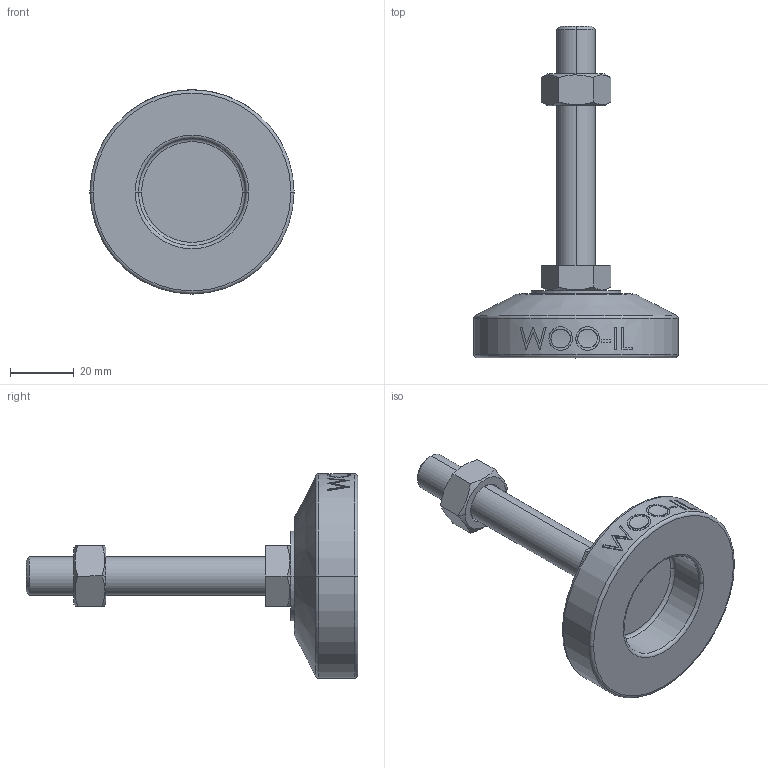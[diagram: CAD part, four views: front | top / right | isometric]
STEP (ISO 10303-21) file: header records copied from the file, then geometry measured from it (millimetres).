
FILE_DESCRIPTION (( 'STEP AP214' ), '1' );
FILE_NAME ('MFZ64-M12-75.step', '2021-01-15T07:05:56', ( '' ), ( '' ), 'SwSTEP 2.0', 'SolidWorks 2019', '' );
FILE_SCHEMA (( 'AUTOMOTIVE_DESIGN' ));
Length unit declared in the file: millimetre
Products named in the file (2): MFZ64-M12-75
Bounding box: 64 x 104 x 64 mm (x, y, z)
Volume: 58528.1 mm3; surface area: 15836.3 mm2
Topology: 3 solids, 3 shells, 106 faces, 243 edges, 154 vertices
Faces by surface type: plane 48, cylinder 18, bspline 16, cone 14, torus 10
Entity records: 4520 total; most frequent: CARTESIAN_POINT 2177, ORIENTED_EDGE 486, DIRECTION 439, EDGE_CURVE 243, AXIS2_PLACEMENT_3D 170, VERTEX_POINT 154, EDGE_LOOP 119, ADVANCED_FACE 106
